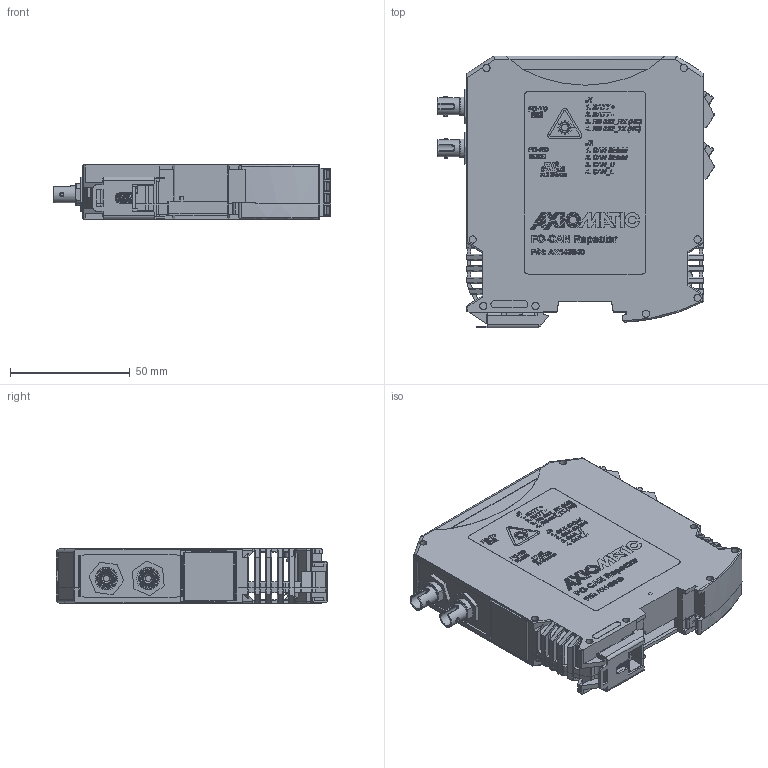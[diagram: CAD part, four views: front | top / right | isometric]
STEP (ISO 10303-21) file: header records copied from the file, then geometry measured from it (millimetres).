
FILE_DESCRIPTION(/* description */ ('625-5334-00 Fiber Optic to CAN Converter'),/* implementation_level */ '2;1');
FILE_NAME(/* name */ 'S:\Projects\FO-CAN, AX143000, Proj_21020\MECHANICAL\rev A\AX143040.stp',/* time_stamp */ '2026-06-02T18:27:15-04:00',/* author */ ('AutoDeskUser'),/* organization */ (''),/* preprocessor_version */ 'ST-DEVELOPER v18.1',/* originating_system */ 'Autodesk Inventor 2021',/* authorisation */ '');
FILE_SCHEMA (('CONFIG_CONTROL_DESIGN'));
Products named in the file (19): FG-AX143030 for STEP; LBM-AX143000-03-R1; LBM-AX143030-01-R1 for STEP; MG-21020-01 for STEP; PHO 1514324; PHO ME MAX B-22.5-KMGY; ME-MAX-22-5-3-U1-KMGY 2201538 spring; ME-MAX-22-5-3-U1-KMGY back; ME-MAX-22-5-3-U1-KMGY 2201538 clip; ME-MAX-22-5-3-U1-KMGY 2201538 front; ME-MAX-22-5-3-U1-KMGY clear cover; PHO 1474716; BROAD HFBR-4411Z; BROAD HFBR-2412TZ; BROAD HFBR-1412TZ; PHO MSTBO 2.5-4-G1R; LBM-SERIAL-01-R3; PHO 2908294; PHO PSPT 2,5/ 4-ST KMGY
Assembly tree (25 placements, depth 4):
  FG-AX143030 for STEP
    LBM-AX143000-03-R1
    LBM-AX143030-01-R1 for STEP
    MG-21020-01 for STEP
      PHO ME MAX B-22.5-KMGY  x2
      PHO 1514324
        PHO ME MAX B-22.5-KMGY  x2
        ME-MAX-22-5-3-U1-KMGY 2201538 spring
        ME-MAX-22-5-3-U1-KMGY back
        ME-MAX-22-5-3-U1-KMGY 2201538 clip
        ME-MAX-22-5-3-U1-KMGY 2201538 front
        ME-MAX-22-5-3-U1-KMGY clear cover
        PHO 1474716
      BROAD HFBR-4411Z  x2
      BROAD HFBR-2412TZ
      BROAD HFBR-1412TZ
      PHO MSTBO 2.5-4-G1R  x2
      LBM-SERIAL-01-R3  x2
      PHO 2908294
    PHO PSPT 2,5/ 4-ST KMGY  x2
Bounding box: 116.01 x 113.65 x 22.85 mm (x, y, z)
Volume: 58346.6 mm3; surface area: 96681.5 mm2
Topology: 23 solids, 23 shells, 7903 faces, 21553 edges, 14151 vertices
Faces by surface type: plane 5717, cylinder 1152, bspline 864, sphere 64, torus 58, cone 48
Full cylindrical faces by diameter (mm): 0.238 x2, 0.46 x8, 1.051 x1, 1.2 x1, 1.316 x1, 1.35 x2, 1.4 x6, 1.5 x36, 1.6 x1, 2.2 x8, 2.5 x2, 2.8 x17, 2.9 x16, 3 x20, 4.5 x3, 5.8 x2, 7.1 x2, 9.525 x2, 10 x2
Entity records: 219754 total; most frequent: CARTESIAN_POINT 59672, ORIENTED_EDGE 34366, DIRECTION 28517, EDGE_CURVE 17183, LINE 13301, VECTOR 13301, VERTEX_POINT 11337, AXIS2_PLACEMENT_3D 7608
